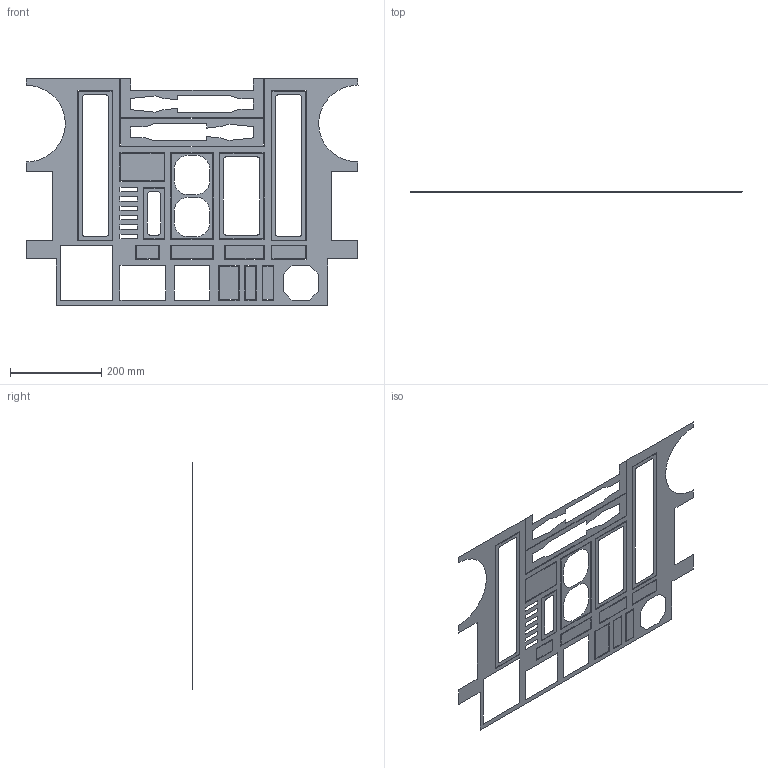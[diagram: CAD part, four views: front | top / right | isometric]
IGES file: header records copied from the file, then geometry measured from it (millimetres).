
Start section: 3D InterOp IGES (Version 21 0 3), Spatial Corp. Copyright (c) 1999-2007.
Global section: file name: CSR SKIN Outer Front ANH - 20140501_2DSurface.igs; native system: Spatial Corp.; preprocessor: 3D InterOp GENERIC/IGES 3.0; author: Noname; organization: Noname; date: 20140521.225313; units: inch
Bounding box: 728.14 x 0 x 496.89 mm (x, y, z)
Surface area: 176819.3 mm2 (no closed solid volume)
Topology: 0 solids, 0 shells, 16 faces, 274 edges, 274 vertices
Faces by surface type: extrusion 16
